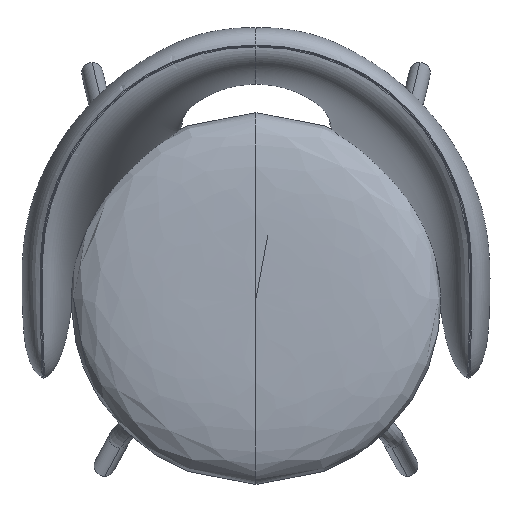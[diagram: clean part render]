
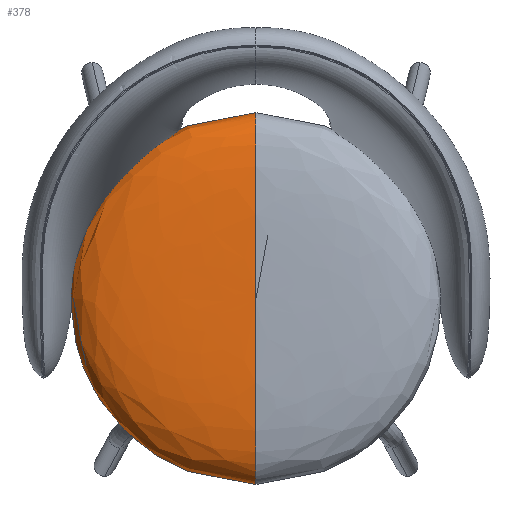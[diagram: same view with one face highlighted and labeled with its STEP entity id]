
A CAD part, top view. The second image highlights one B-rep face of the part: STEP entity #378.
In plain terms, the highlighted free-form (B-spline) face has degree [3, 2] with [8, 5] control points.
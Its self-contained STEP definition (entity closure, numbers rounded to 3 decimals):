
#85=B_SPLINE_CURVE_WITH_KNOTS('',3,(#113224,#113225,#113226,#113227,#113228,
#113229,#113230,#113231),.UNSPECIFIED.,.F.,.F.,(4,3,1,4),(-265.,
0.,117.5,235.),.UNSPECIFIED.);
#86=B_SPLINE_CURVE_WITH_KNOTS('',3,(#113232,#113233,#113234,#113235,#113236,
#113237,#113238,#113239),.UNSPECIFIED.,.F.,.F.,(4,3,1,4),(-265.,
0.,117.5,235.),.UNSPECIFIED.);
#378=ADVANCED_FACE('',(#470),#1844,.T.);
#470=FACE_OUTER_BOUND('',#562,.T.);
#562=EDGE_LOOP('',(#909,#910));
#909=ORIENTED_EDGE('',*,*,#1208,.T.);
#910=ORIENTED_EDGE('',*,*,#1207,.F.);
#1207=EDGE_CURVE('',#1789,#1790,#85,.T.);
#1208=EDGE_CURVE('',#1789,#1790,#86,.T.);
#1789=VERTEX_POINT('',#113222);
#1790=VERTEX_POINT('',#113223);
#1844=(
BOUNDED_SURFACE()
B_SPLINE_SURFACE(3,2,((#113182,#113183,#113184,#113185,#113186),(#113187,
#113188,#113189,#113190,#113191),(#113192,#113193,#113194,#113195,#113196),
(#113197,#113198,#113199,#113200,#113201),(#113202,#113203,#113204,#113205,
#113206),(#113207,#113208,#113209,#113210,#113211),(#113212,#113213,#113214,
#113215,#113216),(#113217,#113218,#113219,#113220,#113221)),
 .UNSPECIFIED.,.F.,.F.,.F.)
B_SPLINE_SURFACE_WITH_KNOTS((4,3,1,4),(3,2,3),(-265.,0.,117.5,
235.),(691.148,1036.723,1382.297),
 .UNSPECIFIED.)
GEOMETRIC_REPRESENTATION_ITEM()
RATIONAL_B_SPLINE_SURFACE(((1.,0.707,1.,0.707,1.),
(1.,0.707,1.,0.707,1.),(1.,0.707,1.,
0.707,1.),(1.,0.707,1.,0.707,1.),(1.,
0.707,1.,0.707,1.),(1.,0.707,1.,0.707,
1.),(1.,0.707,1.,0.707,1.),(1.,0.707,
1.,0.707,1.)))
REPRESENTATION_ITEM('')
SURFACE()
);
#113182=CARTESIAN_POINT('',(1136.032,99.115,470.));
#113183=CARTESIAN_POINT('',(1136.032,99.115,470.));
#113184=CARTESIAN_POINT('',(1136.032,99.115,470.));
#113185=CARTESIAN_POINT('',(1136.032,99.115,470.));
#113186=CARTESIAN_POINT('',(1136.032,99.115,470.));
#113187=CARTESIAN_POINT('',(1136.032,237.495,470.));
#113188=CARTESIAN_POINT('',(997.652,237.495,470.));
#113189=CARTESIAN_POINT('',(997.652,99.115,470.));
#113190=CARTESIAN_POINT('',(997.652,-39.265,470.));
#113191=CARTESIAN_POINT('',(1136.032,-39.265,470.));
#113192=CARTESIAN_POINT('',(1136.032,319.115,470.));
#113193=CARTESIAN_POINT('',(916.032,319.115,470.));
#113194=CARTESIAN_POINT('',(916.032,99.115,470.));
#113195=CARTESIAN_POINT('',(916.032,-120.885,470.));
#113196=CARTESIAN_POINT('',(1136.032,-120.885,470.));
#113197=CARTESIAN_POINT('',(1136.032,319.115,425.));
#113198=CARTESIAN_POINT('',(916.032,319.115,425.));
#113199=CARTESIAN_POINT('',(916.032,99.115,425.));
#113200=CARTESIAN_POINT('',(916.032,-120.885,425.));
#113201=CARTESIAN_POINT('',(1136.032,-120.885,425.));
#113202=CARTESIAN_POINT('',(1136.032,319.115,410.));
#113203=CARTESIAN_POINT('',(916.032,319.115,410.));
#113204=CARTESIAN_POINT('',(916.032,99.115,410.));
#113205=CARTESIAN_POINT('',(916.032,-120.885,410.));
#113206=CARTESIAN_POINT('',(1136.032,-120.885,410.));
#113207=CARTESIAN_POINT('',(1136.032,304.394,410.));
#113208=CARTESIAN_POINT('',(930.753,304.394,410.));
#113209=CARTESIAN_POINT('',(930.753,99.115,410.));
#113210=CARTESIAN_POINT('',(930.753,-106.164,410.));
#113211=CARTESIAN_POINT('',(1136.032,-106.164,410.));
#113212=CARTESIAN_POINT('',(1136.032,268.233,410.));
#113213=CARTESIAN_POINT('',(966.914,268.233,410.));
#113214=CARTESIAN_POINT('',(966.914,99.115,410.));
#113215=CARTESIAN_POINT('',(966.914,-70.003,410.));
#113216=CARTESIAN_POINT('',(1136.032,-70.003,410.));
#113217=CARTESIAN_POINT('',(1136.032,99.115,410.));
#113218=CARTESIAN_POINT('',(1136.032,99.115,410.));
#113219=CARTESIAN_POINT('',(1136.032,99.115,410.));
#113220=CARTESIAN_POINT('',(1136.032,99.115,410.));
#113221=CARTESIAN_POINT('',(1136.032,99.115,410.));
#113222=CARTESIAN_POINT('',(1136.032,99.115,470.));
#113223=CARTESIAN_POINT('',(1136.032,99.115,410.));
#113224=CARTESIAN_POINT('',(1136.032,99.115,470.));
#113225=CARTESIAN_POINT('',(1136.032,-39.265,470.));
#113226=CARTESIAN_POINT('',(1136.032,-120.885,470.));
#113227=CARTESIAN_POINT('',(1136.032,-120.885,425.));
#113228=CARTESIAN_POINT('',(1136.032,-120.885,410.));
#113229=CARTESIAN_POINT('',(1136.032,-106.164,410.));
#113230=CARTESIAN_POINT('',(1136.032,-70.003,410.));
#113231=CARTESIAN_POINT('',(1136.032,99.115,410.));
#113232=CARTESIAN_POINT('',(1136.032,99.115,470.));
#113233=CARTESIAN_POINT('',(1136.032,237.495,470.));
#113234=CARTESIAN_POINT('',(1136.032,319.115,470.));
#113235=CARTESIAN_POINT('',(1136.032,319.115,425.));
#113236=CARTESIAN_POINT('',(1136.032,319.115,410.));
#113237=CARTESIAN_POINT('',(1136.032,304.394,410.));
#113238=CARTESIAN_POINT('',(1136.032,268.233,410.));
#113239=CARTESIAN_POINT('',(1136.032,99.115,410.));
